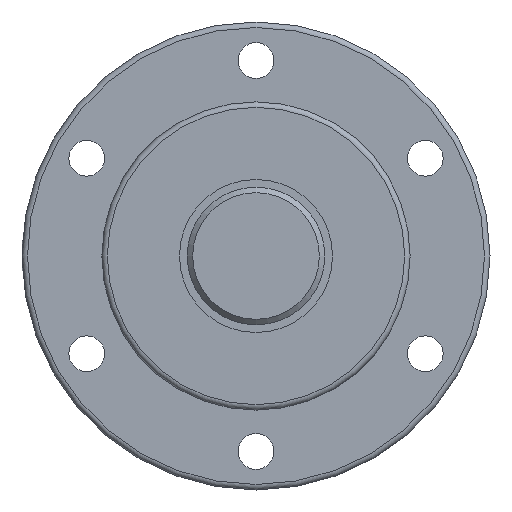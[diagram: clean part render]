
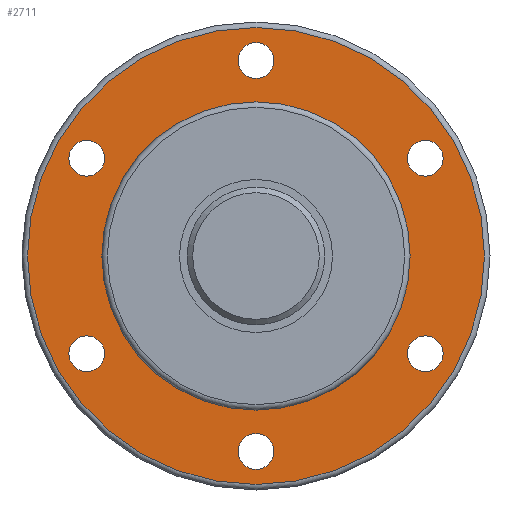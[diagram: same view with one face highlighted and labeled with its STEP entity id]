
A CAD part, left-side view. The second image highlights one B-rep face of the part: STEP entity #2711.
In plain terms, the highlighted planar face has unit normal (-1, 0, 0).
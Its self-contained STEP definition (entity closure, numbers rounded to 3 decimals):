
#5 = FACE_BOUND ( 'NONE', #2245, .T. ) ;
#54 = EDGE_CURVE ( 'NONE', #1176, #1176, #2024, .T. ) ;
#69 = CARTESIAN_POINT ( 'NONE',  ( -13., 0., 0. ) ) ;
#71 = DIRECTION ( 'NONE',  ( -1., 0., 0. ) ) ;
#81 = VERTEX_POINT ( 'NONE', #758 ) ;
#108 = CARTESIAN_POINT ( 'NONE',  ( -13., 0., -28. ) ) ;
#155 = EDGE_LOOP ( 'NONE', ( #1514 ) ) ;
#173 = VERTEX_POINT ( 'NONE', #835 ) ;
#196 = EDGE_LOOP ( 'NONE', ( #222 ) ) ;
#208 = EDGE_LOOP ( 'NONE', ( #1799 ) ) ;
#222 = ORIENTED_EDGE ( 'NONE', *, *, #1697, .T. ) ;
#260 = DIRECTION ( 'NONE',  ( 0., 0., -1. ) ) ;
#264 = CARTESIAN_POINT ( 'NONE',  ( -13., 30.744, -17.75 ) ) ;
#287 = DIRECTION ( 'NONE',  ( -1., 0., 0. ) ) ;
#309 = EDGE_CURVE ( 'NONE', #963, #963, #451, .T. ) ;
#318 = DIRECTION ( 'NONE',  ( 0., 0., -1. ) ) ;
#331 = PLANE ( 'NONE',  #2255 ) ;
#376 = ORIENTED_EDGE ( 'NONE', *, *, #54, .F. ) ;
#404 = CARTESIAN_POINT ( 'NONE',  ( -13., 0., -41.5 ) ) ;
#451 = CIRCLE ( 'NONE', #1387, 3.25 ) ;
#498 = DIRECTION ( 'NONE',  ( -1., 0., 0. ) ) ;
#517 = DIRECTION ( 'NONE',  ( 0., 0., 1. ) ) ;
#540 = DIRECTION ( 'NONE',  ( 0., 0., 1. ) ) ;
#552 = AXIS2_PLACEMENT_3D ( 'NONE', #821, #578, #1643 ) ;
#553 = CARTESIAN_POINT ( 'NONE',  ( -13., -30.744, 17.75 ) ) ;
#557 = DIRECTION ( 'NONE',  ( 1., 0., 0. ) ) ;
#578 = DIRECTION ( 'NONE',  ( -1., 0., 0. ) ) ;
#579 = VERTEX_POINT ( 'NONE', #2767 ) ;
#592 = CIRCLE ( 'NONE', #1118, 3.25 ) ;
#605 = EDGE_CURVE ( 'NONE', #81, #81, #592, .T. ) ;
#648 = FACE_OUTER_BOUND ( 'NONE', #1431, .T. ) ;
#684 = DIRECTION ( 'NONE',  ( -1., 0., 0. ) ) ;
#704 = DIRECTION ( 'NONE',  ( -1., 0., 0. ) ) ;
#758 = CARTESIAN_POINT ( 'NONE',  ( -13., 0., -32.25 ) ) ;
#766 = ORIENTED_EDGE ( 'NONE', *, *, #2002, .F. ) ;
#810 = CIRCLE ( 'NONE', #1519, 3.25 ) ;
#821 = CARTESIAN_POINT ( 'NONE',  ( -13., -30.744, -17.75 ) ) ;
#835 = CARTESIAN_POINT ( 'NONE',  ( -13., -30.744, -14.5 ) ) ;
#963 = VERTEX_POINT ( 'NONE', #2433 ) ;
#1031 = AXIS2_PLACEMENT_3D ( 'NONE', #1805, #557, #318 ) ;
#1109 = CARTESIAN_POINT ( 'NONE',  ( -13., 30.744, 17.75 ) ) ;
#1118 = AXIS2_PLACEMENT_3D ( 'NONE', #1748, #71, #517 ) ;
#1146 = VERTEX_POINT ( 'NONE', #108 ) ;
#1167 = AXIS2_PLACEMENT_3D ( 'NONE', #69, #1720, #260 ) ;
#1176 = VERTEX_POINT ( 'NONE', #2249 ) ;
#1253 = CARTESIAN_POINT ( 'NONE',  ( -13., -30.744, 21. ) ) ;
#1263 = EDGE_LOOP ( 'NONE', ( #1880 ) ) ;
#1343 = CARTESIAN_POINT ( 'NONE',  ( -13., 0., 35.5 ) ) ;
#1387 = AXIS2_PLACEMENT_3D ( 'NONE', #1109, #684, #1923 ) ;
#1431 = EDGE_LOOP ( 'NONE', ( #766 ) ) ;
#1514 = ORIENTED_EDGE ( 'NONE', *, *, #309, .F. ) ;
#1519 = AXIS2_PLACEMENT_3D ( 'NONE', #1343, #498, #2435 ) ;
#1522 = FACE_BOUND ( 'NONE', #155, .T. ) ;
#1601 = ORIENTED_EDGE ( 'NONE', *, *, #2293, .F. ) ;
#1643 = DIRECTION ( 'NONE',  ( 0., 0., 1. ) ) ;
#1671 = VERTEX_POINT ( 'NONE', #404 ) ;
#1697 = EDGE_CURVE ( 'NONE', #1146, #1146, #2745, .T. ) ;
#1704 = FACE_BOUND ( 'NONE', #2455, .T. ) ;
#1720 = DIRECTION ( 'NONE',  ( 1., 0., 0. ) ) ;
#1748 = CARTESIAN_POINT ( 'NONE',  ( -13., 0., -35.5 ) ) ;
#1759 = FACE_BOUND ( 'NONE', #2411, .T. ) ;
#1799 = ORIENTED_EDGE ( 'NONE', *, *, #2175, .F. ) ;
#1805 = CARTESIAN_POINT ( 'NONE',  ( -13., 0., 0. ) ) ;
#1880 = ORIENTED_EDGE ( 'NONE', *, *, #1907, .F. ) ;
#1907 = EDGE_CURVE ( 'NONE', #579, #579, #810, .T. ) ;
#1915 = FACE_BOUND ( 'NONE', #208, .T. ) ;
#1923 = DIRECTION ( 'NONE',  ( 0., 0., 1. ) ) ;
#2002 = EDGE_CURVE ( 'NONE', #1671, #1671, #2251, .T. ) ;
#2024 = CIRCLE ( 'NONE', #2475, 3.25 ) ;
#2175 = EDGE_CURVE ( 'NONE', #2317, #2317, #2612, .T. ) ;
#2207 = CIRCLE ( 'NONE', #552, 3.25 ) ;
#2245 = EDGE_LOOP ( 'NONE', ( #1601 ) ) ;
#2249 = CARTESIAN_POINT ( 'NONE',  ( -13., 30.744, -14.5 ) ) ;
#2251 = CIRCLE ( 'NONE', #1031, 41.5 ) ;
#2255 = AXIS2_PLACEMENT_3D ( 'NONE', #2263, #287, #540 ) ;
#2263 = CARTESIAN_POINT ( 'NONE',  ( -13., -70.615, 0. ) ) ;
#2293 = EDGE_CURVE ( 'NONE', #173, #173, #2207, .T. ) ;
#2317 = VERTEX_POINT ( 'NONE', #1253 ) ;
#2339 = ORIENTED_EDGE ( 'NONE', *, *, #605, .F. ) ;
#2364 = DIRECTION ( 'NONE',  ( 0., 0., 1. ) ) ;
#2411 = EDGE_LOOP ( 'NONE', ( #376 ) ) ;
#2433 = CARTESIAN_POINT ( 'NONE',  ( -13., 30.744, 21. ) ) ;
#2435 = DIRECTION ( 'NONE',  ( 0., 0., 1. ) ) ;
#2444 = DIRECTION ( 'NONE',  ( 0., 0., 1. ) ) ;
#2455 = EDGE_LOOP ( 'NONE', ( #2339 ) ) ;
#2475 = AXIS2_PLACEMENT_3D ( 'NONE', #264, #2578, #2364 ) ;
#2524 = AXIS2_PLACEMENT_3D ( 'NONE', #553, #704, #2444 ) ;
#2572 = FACE_BOUND ( 'NONE', #196, .T. ) ;
#2578 = DIRECTION ( 'NONE',  ( -1., 0., 0. ) ) ;
#2612 = CIRCLE ( 'NONE', #2524, 3.25 ) ;
#2629 = FACE_BOUND ( 'NONE', #1263, .T. ) ;
#2711 = ADVANCED_FACE ( 'NONE', ( #1759, #1522, #2629, #1915, #5, #1704, #2572, #648 ), #331, .T. ) ;
#2745 = CIRCLE ( 'NONE', #1167, 28. ) ;
#2767 = CARTESIAN_POINT ( 'NONE',  ( -13., 0., 38.75 ) ) ;
